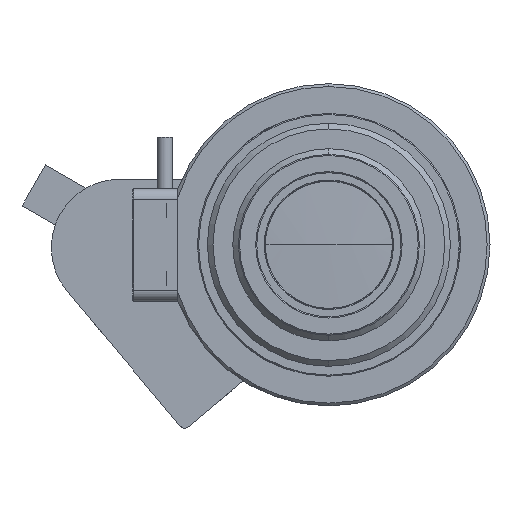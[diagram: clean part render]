
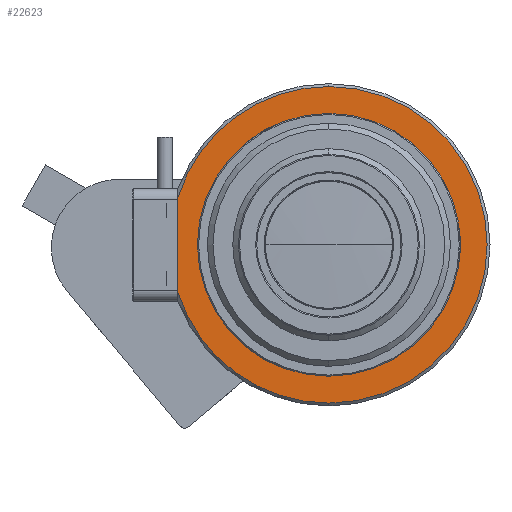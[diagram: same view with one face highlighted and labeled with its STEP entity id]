
A CAD part, front view. The second image highlights one B-rep face of the part: STEP entity #22623.
In plain terms, the highlighted planar face has unit normal (0, -1, 0).
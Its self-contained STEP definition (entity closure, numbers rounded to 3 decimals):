
#431 = EDGE_CURVE ( 'NONE', #19535, #12533, #3804, .T. ) ;
#733 = CARTESIAN_POINT ( 'NONE',  ( 0., 131.21, 0. ) ) ;
#1261 = DIRECTION ( 'NONE',  ( 0., 0., -1. ) ) ;
#1741 = DIRECTION ( 'NONE',  ( 0., 0., -1. ) ) ;
#2529 = DIRECTION ( 'NONE',  ( 0., 0., -1. ) ) ;
#2819 = FACE_BOUND ( 'NONE', #14869, .T. ) ;
#2947 = CARTESIAN_POINT ( 'NONE',  ( 28.5, 131.21, 0. ) ) ;
#3194 = LINE ( 'NONE', #20311, #4887 ) ;
#3615 = EDGE_CURVE ( 'NONE', #27447, #21056, #3194, .T. ) ;
#3804 = CIRCLE ( 'NONE', #7795, 23.25 ) ;
#3906 = EDGE_CURVE ( 'NONE', #21056, #26747, #4197, .T. ) ;
#4197 = CIRCLE ( 'NONE', #17947, 28. ) ;
#4340 = EDGE_LOOP ( 'NONE', ( #22042, #13359, #10488, #17729 ) ) ;
#4887 = VECTOR ( 'NONE', #5368, 1000. ) ;
#5368 = DIRECTION ( 'NONE',  ( 0., 0., -1. ) ) ;
#7692 = DIRECTION ( 'NONE',  ( 0., -1., 0. ) ) ;
#7795 = AXIS2_PLACEMENT_3D ( 'NONE', #22790, #12221, #1741 ) ;
#8645 = EDGE_CURVE ( 'NONE', #12533, #19535, #19649, .T. ) ;
#9841 = DIRECTION ( 'NONE',  ( 0., -1., 0. ) ) ;
#9986 = EDGE_CURVE ( 'NONE', #26747, #21858, #24739, .T. ) ;
#10002 = CARTESIAN_POINT ( 'NONE',  ( 0., 131.21, 0. ) ) ;
#10488 = ORIENTED_EDGE ( 'NONE', *, *, #14002, .T. ) ;
#10669 = AXIS2_PLACEMENT_3D ( 'NONE', #2947, #23729, #21679 ) ;
#11563 = ORIENTED_EDGE ( 'NONE', *, *, #431, .F. ) ;
#11740 = CARTESIAN_POINT ( 'NONE',  ( 0., 131.21, 0. ) ) ;
#12221 = DIRECTION ( 'NONE',  ( 0., -1., 0. ) ) ;
#12343 = CIRCLE ( 'NONE', #14611, 28. ) ;
#12533 = VERTEX_POINT ( 'NONE', #27496 ) ;
#13359 = ORIENTED_EDGE ( 'NONE', *, *, #9986, .T. ) ;
#13810 = FACE_OUTER_BOUND ( 'NONE', #4340, .T. ) ;
#14002 = EDGE_CURVE ( 'NONE', #21858, #27447, #12343, .T. ) ;
#14611 = AXIS2_PLACEMENT_3D ( 'NONE', #11740, #9841, #1261 ) ;
#14869 = EDGE_LOOP ( 'NONE', ( #15684, #11563 ) ) ;
#15348 = DIRECTION ( 'NONE',  ( 0., -1., 0. ) ) ;
#15599 = DIRECTION ( 'NONE',  ( 0., -1., 0. ) ) ;
#15605 = CARTESIAN_POINT ( 'NONE',  ( 0., 131.21, 0. ) ) ;
#15684 = ORIENTED_EDGE ( 'NONE', *, *, #8645, .F. ) ;
#16131 = CARTESIAN_POINT ( 'NONE',  ( 0., 131.21, 23.25 ) ) ;
#17707 = DIRECTION ( 'NONE',  ( 0., 0., -1. ) ) ;
#17729 = ORIENTED_EDGE ( 'NONE', *, *, #3615, .T. ) ;
#17947 = AXIS2_PLACEMENT_3D ( 'NONE', #10002, #7692, #22488 ) ;
#19535 = VERTEX_POINT ( 'NONE', #16131 ) ;
#19566 = CARTESIAN_POINT ( 'NONE',  ( 0., 131.21, -28. ) ) ;
#19649 = CIRCLE ( 'NONE', #26723, 23.25 ) ;
#19776 = PLANE ( 'NONE',  #10669 ) ;
#20311 = CARTESIAN_POINT ( 'NONE',  ( -26.7, 131.21, 0. ) ) ;
#21056 = VERTEX_POINT ( 'NONE', #22937 ) ;
#21679 = DIRECTION ( 'NONE',  ( 0., 0., -1. ) ) ;
#21858 = VERTEX_POINT ( 'NONE', #24469 ) ;
#22042 = ORIENTED_EDGE ( 'NONE', *, *, #3906, .T. ) ;
#22488 = DIRECTION ( 'NONE',  ( 0., 0., -1. ) ) ;
#22623 = ADVANCED_FACE ( 'NONE', ( #2819, #13810 ), #19776, .T. ) ;
#22790 = CARTESIAN_POINT ( 'NONE',  ( 0., 131.21, 0. ) ) ;
#22937 = CARTESIAN_POINT ( 'NONE',  ( -26.7, 131.21, -8.433 ) ) ;
#23729 = DIRECTION ( 'NONE',  ( 0., -1., 0. ) ) ;
#24469 = CARTESIAN_POINT ( 'NONE',  ( 0., 131.21, 28. ) ) ;
#24739 = CIRCLE ( 'NONE', #24812, 28. ) ;
#24812 = AXIS2_PLACEMENT_3D ( 'NONE', #733, #15599, #17707 ) ;
#25430 = CARTESIAN_POINT ( 'NONE',  ( -26.7, 131.21, 8.433 ) ) ;
#26723 = AXIS2_PLACEMENT_3D ( 'NONE', #15605, #15348, #2529 ) ;
#26747 = VERTEX_POINT ( 'NONE', #19566 ) ;
#27447 = VERTEX_POINT ( 'NONE', #25430 ) ;
#27496 = CARTESIAN_POINT ( 'NONE',  ( 0., 131.21, -23.25 ) ) ;
